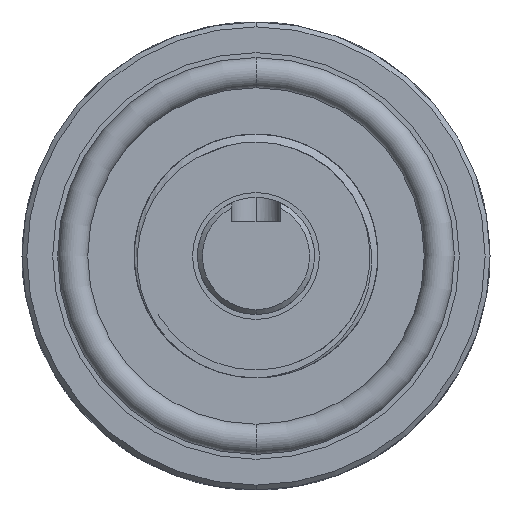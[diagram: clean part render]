
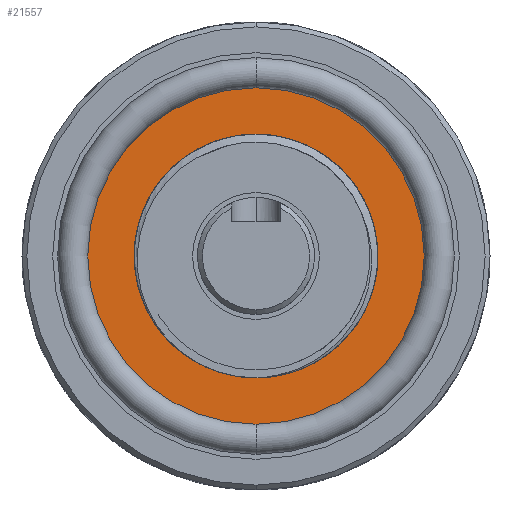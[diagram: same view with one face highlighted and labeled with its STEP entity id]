
A CAD part, left-side view. The second image highlights one B-rep face of the part: STEP entity #21557.
In plain terms, the highlighted planar face has unit normal (-1, 0, 0).
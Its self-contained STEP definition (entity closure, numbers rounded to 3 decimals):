
#8771 = DIRECTION ( 'NONE',  ( 0., 0., 1. ) ) ;
#8772 = DIRECTION ( 'NONE',  ( -1., 0., 0. ) ) ;
#8773 = CARTESIAN_POINT ( 'NONE',  ( 75., 0., 0. ) ) ;
#8774 = AXIS2_PLACEMENT_3D ( 'NONE', #8773, #8772, #8771 ) ;
#8775 = CIRCLE ( 'NONE', #8774, 17.25 ) ;
#10119 = CARTESIAN_POINT ( 'NONE',  ( 75., 0., 0. ) ) ;
#10120 = CIRCLE ( 'NONE', #10194, 11. ) ;
#10192 = DIRECTION ( 'NONE',  ( 0., 0., 1. ) ) ;
#10193 = DIRECTION ( 'NONE',  ( -1., 0., 0. ) ) ;
#10194 = AXIS2_PLACEMENT_3D ( 'NONE', #10119, #10193, #10192 ) ;
#10269 = FACE_OUTER_BOUND ( 'NONE', #21572, .T. ) ;
#10271 = FACE_BOUND ( 'NONE', #21561, .T. ) ;
#10291 = DIRECTION ( 'NONE',  ( 0., 0., 1. ) ) ;
#10292 = DIRECTION ( 'NONE',  ( -1., 0., 0. ) ) ;
#10293 = CARTESIAN_POINT ( 'NONE',  ( 75., 0., -12.5 ) ) ;
#10294 = AXIS2_PLACEMENT_3D ( 'NONE', #10293, #10292, #10291 ) ;
#10296 = PLANE ( 'NONE',  #10294 ) ;
#12741 = EDGE_CURVE ( 'NONE', #12742, #12743, #26714, .T. ) ;
#12742 = VERTEX_POINT ( 'NONE', #26705 ) ;
#12743 = VERTEX_POINT ( 'NONE', #26704 ) ;
#15448 = VERTEX_POINT ( 'NONE', #25360 ) ;
#15450 = EDGE_CURVE ( 'NONE', #15451, #15448, #25359, .T. ) ;
#15451 = VERTEX_POINT ( 'NONE', #25354 ) ;
#20776 = EDGE_CURVE ( 'NONE', #15448, #15451, #8775, .T. ) ;
#21256 = EDGE_CURVE ( 'NONE', #12743, #12742, #10120, .T. ) ;
#21340 = ORIENTED_EDGE ( 'NONE', *, *, #15450, .T. ) ;
#21343 = ORIENTED_EDGE ( 'NONE', *, *, #20776, .T. ) ;
#21557 = ADVANCED_FACE ( 'NONE', ( #10271, #10269 ), #10296, .T. ) ;
#21561 = EDGE_LOOP ( 'NONE', ( #21564, #21567 ) ) ;
#21564 = ORIENTED_EDGE ( 'NONE', *, *, #12741, .F. ) ;
#21567 = ORIENTED_EDGE ( 'NONE', *, *, #21256, .F. ) ;
#21572 = EDGE_LOOP ( 'NONE', ( #21340, #21343 ) ) ;
#25354 = CARTESIAN_POINT ( 'NONE',  ( 75., 0., 17.25 ) ) ;
#25355 = DIRECTION ( 'NONE',  ( 0., 0., 1. ) ) ;
#25356 = DIRECTION ( 'NONE',  ( -1., 0., 0. ) ) ;
#25357 = CARTESIAN_POINT ( 'NONE',  ( 75., 0., 0. ) ) ;
#25358 = AXIS2_PLACEMENT_3D ( 'NONE', #25357, #25356, #25355 ) ;
#25359 = CIRCLE ( 'NONE', #25358, 17.25 ) ;
#25360 = CARTESIAN_POINT ( 'NONE',  ( 75., 0., -17.25 ) ) ;
#26704 = CARTESIAN_POINT ( 'NONE',  ( 75., 0., -11. ) ) ;
#26705 = CARTESIAN_POINT ( 'NONE',  ( 75., 0., 11. ) ) ;
#26706 = DIRECTION ( 'NONE',  ( 0., 0., 1. ) ) ;
#26707 = DIRECTION ( 'NONE',  ( -1., 0., 0. ) ) ;
#26708 = CARTESIAN_POINT ( 'NONE',  ( 75., 0., 0. ) ) ;
#26709 = AXIS2_PLACEMENT_3D ( 'NONE', #26708, #26707, #26706 ) ;
#26714 = CIRCLE ( 'NONE', #26709, 11. ) ;
